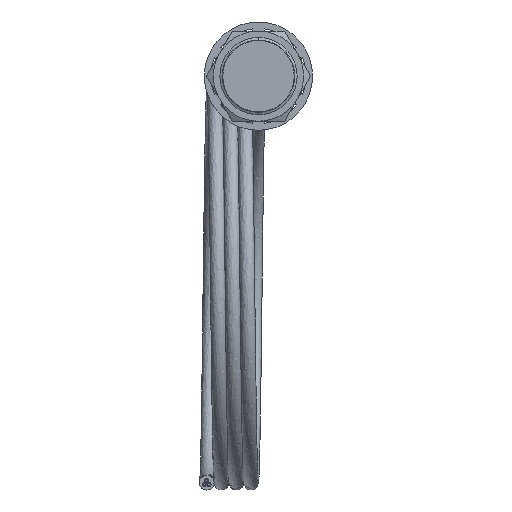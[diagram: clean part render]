
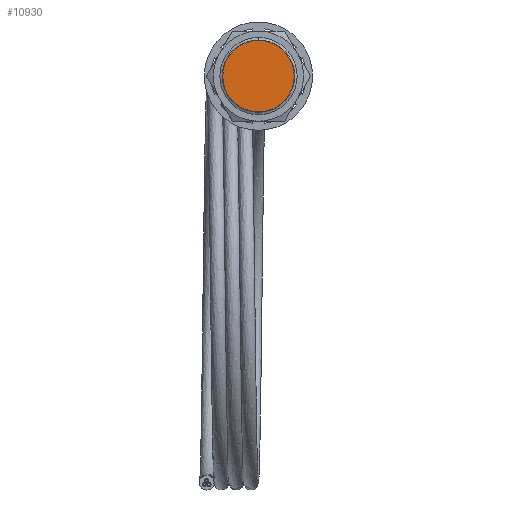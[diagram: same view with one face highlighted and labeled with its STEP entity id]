
A CAD part, left-side view. The second image highlights one B-rep face of the part: STEP entity #10930.
In plain terms, the highlighted planar face has unit normal (-1, 0, 0).
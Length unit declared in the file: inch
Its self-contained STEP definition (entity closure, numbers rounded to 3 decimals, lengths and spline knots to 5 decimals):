
#1879 = FACE_OUTER_BOUND ( 'NONE', #10658, .T. ) ;
#1880 = PLANE ( 'NONE',  #1881 ) ;
#1881 = AXIS2_PLACEMENT_3D ( 'NONE', #1882, #1883, #1884 ) ;
#1882 = CARTESIAN_POINT ( 'NONE',  ( 0.84792, 4.09716, -0.26057 ) ) ;
#1883 = DIRECTION ( 'NONE',  ( -1., 0., 0. ) ) ;
#1884 = DIRECTION ( 'NONE',  ( 0., 0., 1. ) ) ;
#2642 = EDGE_CURVE ( 'NONE', #14913, #15159, #10980, .T. ) ;
#3066 = ORIENTED_EDGE ( 'NONE', *, *, #2642, .F. ) ;
#3654 = ORIENTED_EDGE ( 'NONE', *, *, #15400, .F. ) ;
#4075 = CARTESIAN_POINT ( 'NONE',  ( 0.84792, 4.09716, 0.28593 ) ) ;
#4197 = CARTESIAN_POINT ( 'NONE',  ( 0.84792, 4.09716, -0.80707 ) ) ;
#4333 = CIRCLE ( 'NONE', #4334, 0.5465 ) ;
#4334 = AXIS2_PLACEMENT_3D ( 'NONE', #4335, #4336, #4337 ) ;
#4335 = CARTESIAN_POINT ( 'NONE',  ( 0.84792, 4.09716, -0.26057 ) ) ;
#4336 = DIRECTION ( 'NONE',  ( 1., 0., 0. ) ) ;
#4337 = DIRECTION ( 'NONE',  ( 0., 0., -1. ) ) ;
#10658 = EDGE_LOOP ( 'NONE', ( #3654, #3066 ) ) ;
#10930 = ADVANCED_FACE ( 'NONE', ( #1879 ), #1880, .T. ) ;
#10980 = CIRCLE ( 'NONE', #10981, 0.5465 ) ;
#10981 = AXIS2_PLACEMENT_3D ( 'NONE', #10982, #10983, #10984 ) ;
#10982 = CARTESIAN_POINT ( 'NONE',  ( 0.84792, 4.09716, -0.26057 ) ) ;
#10983 = DIRECTION ( 'NONE',  ( 1., 0., 0. ) ) ;
#10984 = DIRECTION ( 'NONE',  ( 0., 0., -1. ) ) ;
#14913 = VERTEX_POINT ( 'NONE', #4075 ) ;
#15159 = VERTEX_POINT ( 'NONE', #4197 ) ;
#15400 = EDGE_CURVE ( 'NONE', #15159, #14913, #4333, .T. ) ;
